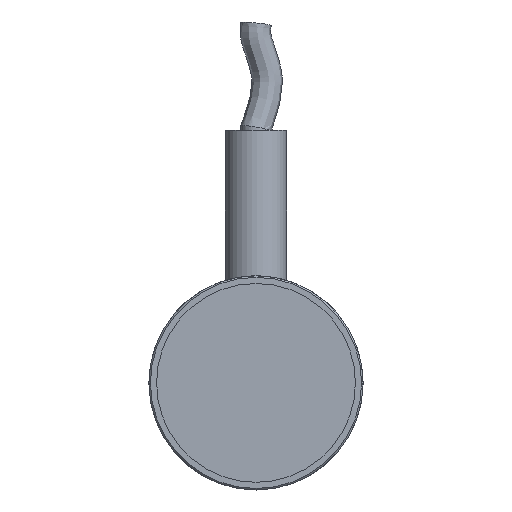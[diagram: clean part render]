
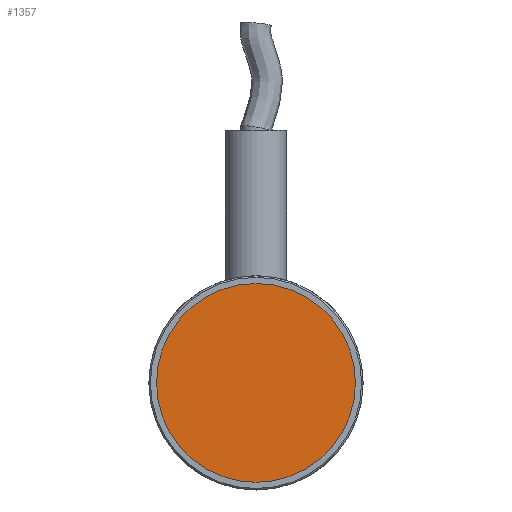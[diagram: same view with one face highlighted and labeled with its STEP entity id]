
A CAD part, left-side view. The second image highlights one B-rep face of the part: STEP entity #1357.
In plain terms, the highlighted planar face has unit normal (-1, 0, 0).
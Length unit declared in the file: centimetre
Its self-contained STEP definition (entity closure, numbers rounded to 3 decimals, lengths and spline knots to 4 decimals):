
#684=VERTEX_POINT('',#1788);
#768=CIRCLE('',#1430,0.65);
#820=EDGE_CURVE('',#684,#684,#768,.T.);
#958=ORIENTED_EDGE('',*,*,#820,.T.);
#1197=EDGE_LOOP('',(#958));
#1281=FACE_BOUND('',#1197,.T.);
#1357=ADVANCED_FACE('',(#1281),#3058,.T.);
#1430=AXIS2_PLACEMENT_3D('',#1787,#1555,#1556);
#1432=AXIS2_PLACEMENT_3D('',#1791,#1559,$);
#1555=DIRECTION('',(-1.,0.,0.));
#1556=DIRECTION('',(0.,0.,0.65));
#1559=DIRECTION('',(-1.,0.,0.));
#1787=CARTESIAN_POINT('',(0.06,0.,0.));
#1788=CARTESIAN_POINT('',(0.06,0.,0.65));
#1791=CARTESIAN_POINT('',(0.06,0.,0.));
#3058=PLANE('',#1432);
